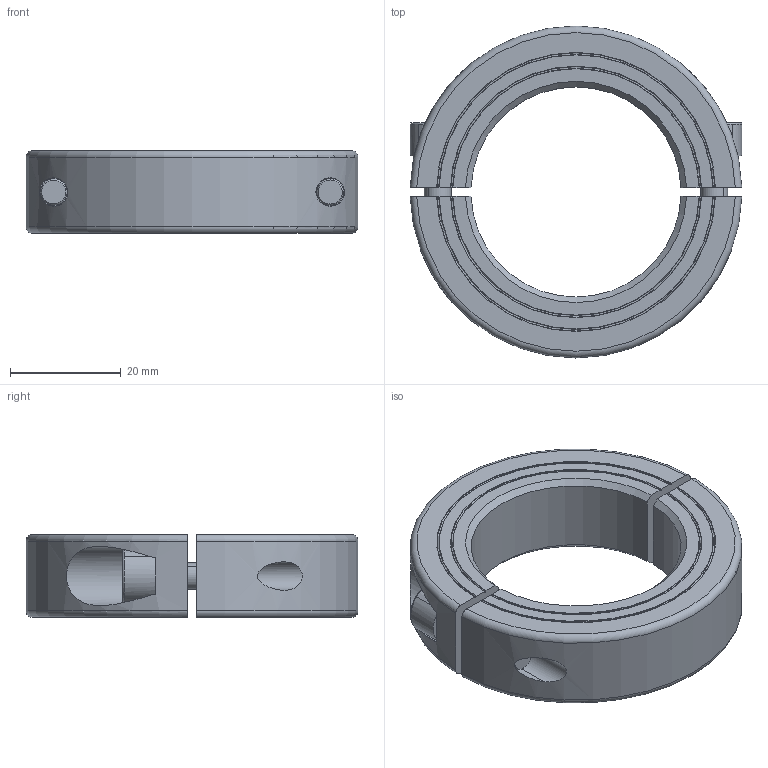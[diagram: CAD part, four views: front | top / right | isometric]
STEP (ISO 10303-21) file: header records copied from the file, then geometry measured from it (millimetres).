
FILE_DESCRIPTION((''),'2;1');
FILE_NAME('MSP-38-X','2016-09-09T',('SYSTEM'),(''),'PRO/ENGINEER BY PARAMETRIC TECHNOLOGY CORPORATION, 2015110','PRO/ENGINEER BY PARAMETRIC TECHNOLOGY CORPORATION, 2015110','');
FILE_SCHEMA(('AUTOMOTIVE_DESIGN { 1 0 10303 214 1 1 1 1 }'));
Length unit declared in the file: inch
Products named in the file (1): MSP-38-X
Bounding box: 59.98 x 60 x 15 mm (x, y, z)
Volume: 23411.6 mm3; surface area: 10279.1 mm2
Topology: 2 solids, 2 shells, 90 faces, 222 edges, 144 vertices
Faces by surface type: plane 36, cylinder 26, cone 20, torus 8
Entity records: 3607 total; most frequent: CARTESIAN_POINT 797, ORIENTED_EDGE 444, DIRECTION 430, EDGE_CURVE 222, AXIS2_PLACEMENT_3D 168, VERTEX_POINT 144, EDGE_LOOP 102, VECTOR 94
